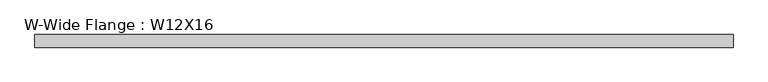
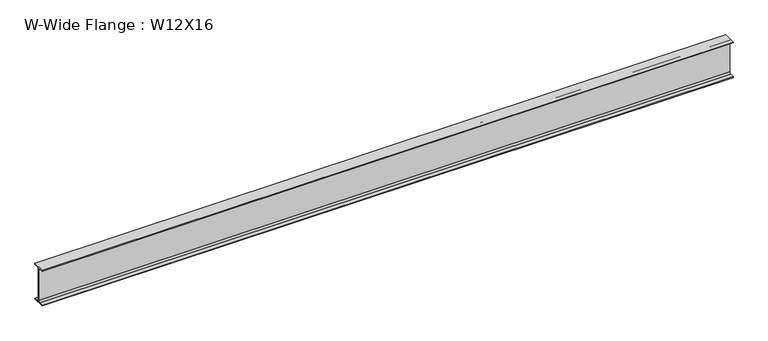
"""IFC4 building model written with IfcOpenShell, lengths in millimetres: beam geometry, W-Wide Flange : W12X16."""

from ifc_helpers import new_model, si_unit, point, frame, frame_2d, origin, place, context, project, spatial, polyline, circle_curve, trimmed, segment, composite_curve, outline, extrude, source, transform, mapped, element, save


def w_wide_flange_w12x16_65248359(model_context):
    return source(origin(), model_context, "Body", "SweptSolid", [
        extrude(outline(composite_curve([segment(polyline([(50.673, -145.669), (50.673, -152.4), (-50.673, -152.4), (-50.673, -145.669), (-16.7005, -145.669)]), True, "CONTINUOUS"), segment(trimmed(circle_curve(frame_2d((-16.7005, -131.7625)), 13.9065), [point((-16.7005, -145.669))], [point((-2.794, -131.7625))], True, "CARTESIAN"), True, "CONTINUOUS"), segment(polyline([(-2.794, -131.7625), (-2.794, 131.7625)]), True, "CONTINUOUS"), segment(trimmed(circle_curve(frame_2d((-16.7005, 131.7625)), 13.9065), [point((-2.794, 131.7625))], [point((-16.7005, 145.669))], True, "CARTESIAN"), True, "CONTINUOUS"), segment(polyline([(-16.7005, 145.669), (-50.673, 145.669), (-50.673, 152.4), (50.673, 152.4), (50.673, 145.669), (16.7005, 145.669)]), True, "CONTINUOUS"), segment(trimmed(circle_curve(frame_2d((16.7005, 131.7625)), 13.9065), [point((16.7005, 145.669))], [point((2.794, 131.7625))], True, "CARTESIAN"), True, "CONTINUOUS"), segment(polyline([(2.794, 131.7625), (2.794, -131.7625)]), True, "CONTINUOUS"), segment(trimmed(circle_curve(frame_2d((16.7005, -131.7625)), 13.9065), [point((2.794, -131.7625))], [point((16.7005, -145.669))], True, "CARTESIAN"), True, "CONTINUOUS"), segment(polyline([(16.7005, -145.669), (50.673, -145.669)]), True, "CONTINUOUS")], self_intersect=False)), frame((-2791.4047862, 0.0, 0.0), z_axis=(1.0, 0.0, 0.0), x_axis=(0.0, 1.0, 0.0)), (0.0, 0.0, 1.0), 5600.7),
    ])


if __name__ == "__main__":
    model = new_model("IFC4")
    model_context = context("Model", 3, world=origin())
    ifc_project = project(units=[si_unit("LENGTHUNIT", "METRE", prefix="MILLI")], contexts=[model_context])
    site = spatial("IfcSite", under=ifc_project)
    building = spatial("IfcBuilding", under=site)
    placement = place(None, origin())
    w_wide_flange_w12x16_shape = w_wide_flange_w12x16_65248359(model_context)
    element("IfcBeam", 1, ObjectType="W-Wide Flange : W12X16", at=placement, inside=building, context=model_context, shape_type="MappedRepresentation", body=[
        mapped(w_wide_flange_w12x16_shape, transform((0.0, 0.0, 0.0), x_axis=(1.0, 0.0, 0.0), y_axis=(0.0, 1.0, 0.0), z_axis=(0.0, 0.0, 1.0))),
    ])
    save(model, "model.ifc")
